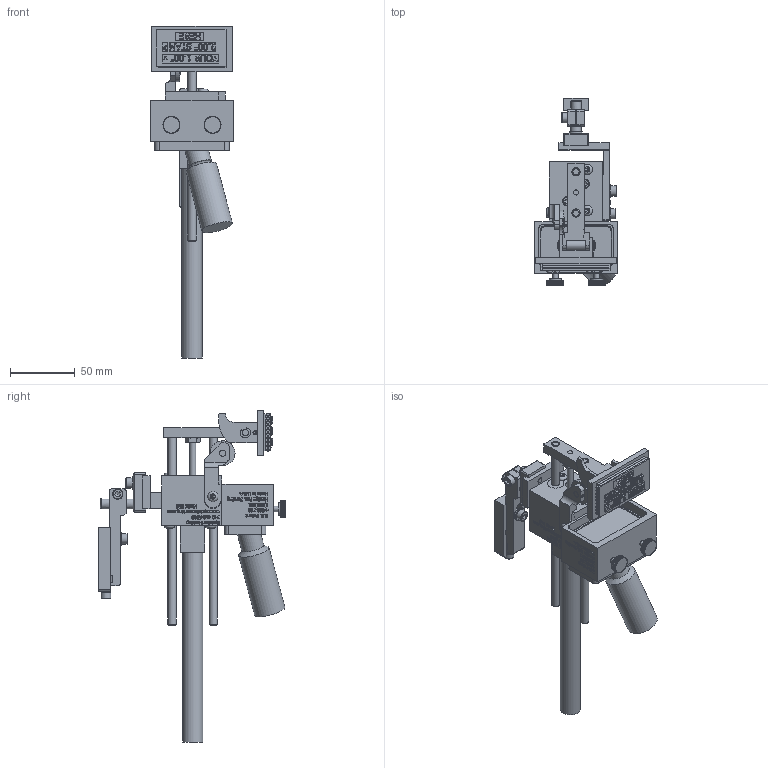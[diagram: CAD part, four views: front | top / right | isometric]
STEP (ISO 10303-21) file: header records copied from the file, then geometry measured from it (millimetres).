
FILE_DESCRIPTION((''),'2;1');
FILE_NAME('C:\Documents and Settings\Ron\My Documents\Inventor\Sprinter Drawing\Machines in Inventor\Model 816\Type\Ext Str\E2\Brkt\90\Model 816 ES 2 90 deg w brkt.stp','2009-01-22T07:12:56',('Ron'),(''),'Autodesk Inventor 2008','Autodesk Inventor 2008','');
FILE_SCHEMA(('AUTOMOTIVE_DESIGN { 1 0 10303 214 1 1 1 1 }'));
Length unit declared in the file: inch
Products named in the file (1): Model 816  ES 2 90 deg w brkt
Bounding box: 63.5 x 144.17 x 255.59 mm (x, y, z)
Volume: 281919.3 mm3; surface area: 94474.8 mm2
Topology: 379 solids, 379 shells, 6740 faces, 16808 edges, 10432 vertices
Faces by surface type: plane 4662, bspline 1458, cylinder 535, cone 66, torus 15, sphere 4
Full cylindrical faces by diameter (mm): 2.54 x2, 2.845 x1, 3.175 x1, 4.064 x2, 4.166 x3, 4.699 x3, 4.75 x2, 4.826 x9, 5.08 x1, 5.156 x3, 6.223 x2, 6.325 x2, 6.35 x2, 6.604 x1, 6.68 x1, 6.858 x2, 7.62 x2, 7.925 x11, 7.938 x1, 9.017 x1, 9.525 x2, 10.312 x4, 10.922 x1, 15.494 x1, 17.526 x1, 19.05 x1, 24.13 x1
Entity records: 210735 total; most frequent: CARTESIAN_POINT 58185, ORIENTED_EDGE 32992, DIRECTION 25551, EDGE_CURVE 16496, VECTOR 12251, LINE 12251, VERTEX_POINT 10327, EDGE_LOOP 7369
